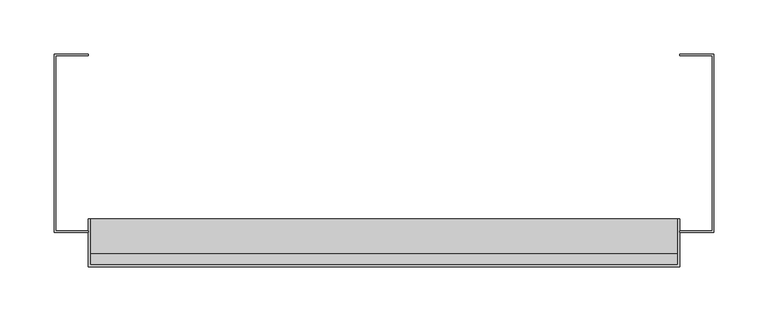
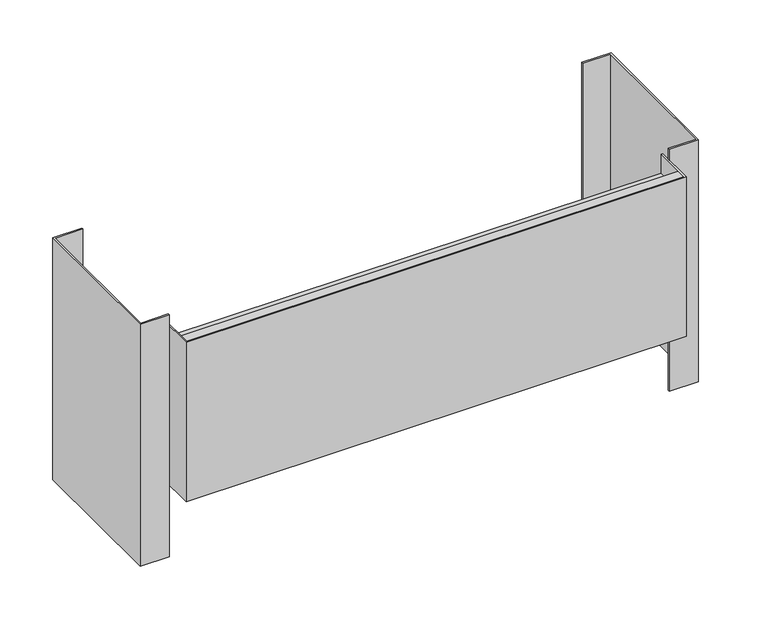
"""IFC4 building model written with IfcOpenShell, lengths in millimetres: furniture geometry."""

from ifc_helpers import new_model, si_unit, frame, origin, place, context, project, spatial, polyline, outline, extrude, source, transform, mapped, element, save


def furniture_678b780f(model_context):
    return source(origin(), model_context, "Body", "SweptSolid", [
        extrude(outline(polyline([(-304.8, -126.20625), (-273.0500008, -126.20625), (-273.0500008, -127.79375), (-303.2125, -127.79375), (-303.2125, -289.7187621), (-273.0500008, -289.7187621), (-273.0500008, -291.3062621), (-304.8, -291.3062621), (-304.8, -126.20625)])), frame((0.0, 0.0, 209.55), z_axis=(0.0, 0.0, 1.0), x_axis=(1.0, 0.0, 0.0)), (0.0, 0.0, 1.0), 279.4),
        extrude(outline(polyline([(273.0500121, -126.20625), (304.8, -126.20625), (304.8, -291.3062621), (273.0500121, -291.3062621), (273.0500121, -289.7187621), (303.2125, -289.7187621), (303.2125, -127.79375), (273.0500121, -127.79375), (273.0500121, -126.20625)])), frame((0.0, 0.0, 209.55), z_axis=(0.0, 0.0, 1.0), x_axis=(1.0, 0.0, 0.0)), (0.0, 0.0, 1.0), 279.4),
        extrude(outline(polyline([(273.0500121, -278.6062561), (273.0500121, -323.05625), (-273.0500008, -323.05625), (-273.0500008, -278.6062561), (-271.4625008, -278.6062561), (-271.4625008, -321.46875), (271.4625121, -321.46875), (271.4625121, -278.6062561), (273.0500121, -278.6062561)])), frame((0.0, 0.0, 292.0999879), z_axis=(0.0, 0.0, 1.0), x_axis=(1.0, 0.0, 0.0)), (0.0, 0.0, 1.0), 184.1500242),
        extrude(outline(polyline([(271.4625121, -311.1182614), (271.4625121, -321.46875), (-271.4625008, -321.46875), (-271.4625008, -311.1182614), (271.4625121, -311.1182614)])), frame((0.0, 0.0, 466.7250121), z_axis=(0.0, 0.0, 1.0), x_axis=(1.0, 0.0, 0.0)), (0.0, 0.0, 1.0), 9.525),
        extrude(outline(polyline([(271.4625121, -278.6062561), (271.4625121, -321.46875), (-271.4625008, -321.46875), (-271.4625008, -278.6062561), (271.4625121, -278.6062561)])), frame((0.0, 0.0, 292.0999879), z_axis=(0.0, 0.0, 1.0), x_axis=(1.0, 0.0, 0.0)), (0.0, 0.0, 1.0), 161.9250363),
    ])


if __name__ == "__main__":
    model = new_model("IFC4")
    model_context = context("Model", 3, world=origin())
    ifc_project = project(units=[si_unit("LENGTHUNIT", "METRE", prefix="MILLI")], contexts=[model_context])
    site = spatial("IfcSite", under=ifc_project)
    building = spatial("IfcBuilding", under=site)
    placement = place(None, origin())
    furniture_shape = furniture_678b780f(model_context)
    element("IfcFurniture", 1, ObjectType="HermanMiller_CoStruc_C2192_CFrameSupport : 11\"H x 24\"D x 24\"W", at=placement, inside=building, context=model_context, shape_type="MappedRepresentation", body=[
        mapped(furniture_shape, transform((0.0, 0.0, 0.0), x_axis=(1.0, 0.0, 0.0), y_axis=(0.0, 1.0, 0.0), z_axis=(0.0, 0.0, 1.0))),
    ])
    save(model, "model.ifc")
